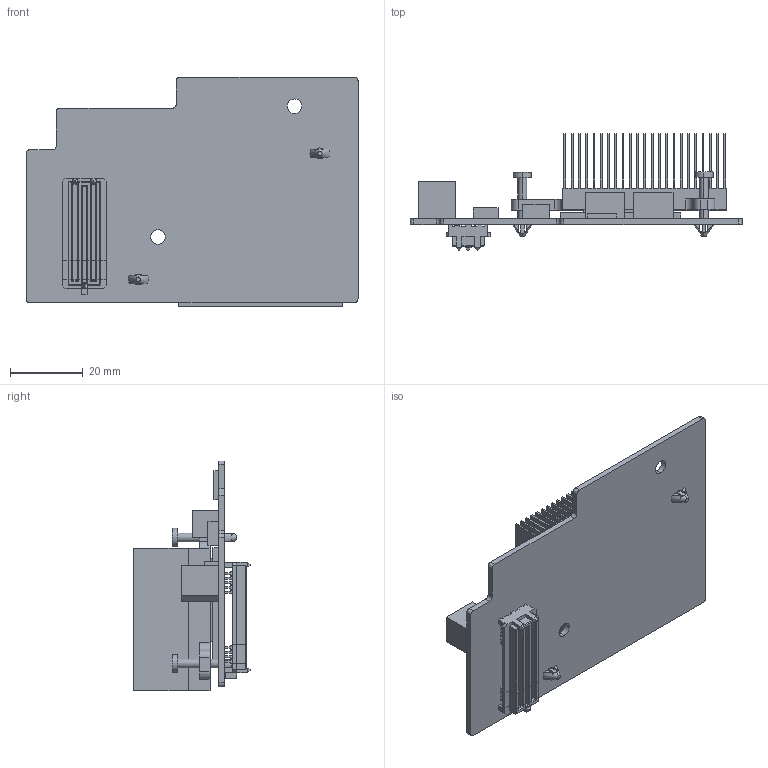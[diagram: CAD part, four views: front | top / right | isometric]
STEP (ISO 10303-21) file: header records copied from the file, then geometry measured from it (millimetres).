
FILE_DESCRIPTION (( 'STEP AP203' ), '1' );
FILE_NAME ('HS+board 3D with inductors(extend 3.2mm TOP SIDE & RIGHT-Hand side)_20150602.STEP', '2015-06-02T12:01:39', ( '' ), ( '' ), 'SwSTEP 2.0', 'SolidWorks 2014', '' );
FILE_SCHEMA (( 'CONFIG_CONTROL_DESIGN' ));
Length unit declared in the file: millimetre
Products named in the file (14): L1; L10; MOLEX_SEARAY_PT1_1; MOLEX_SEARAY_PT2_1; MDCD0082-01; OOLEX_SEARAY_45970-2385_ASM_1_ASM; ICGB0048; PROG0057; C108; HS-20150601; L7; PUSH PIN(82F19-40-9909-1); L8; HS+board 3D with inductors(extend 3.2mm TOP SIDE & RIGHT-Hand side)_20150602
Assembly tree (14 placements, depth 3):
  HS+board 3D with inductors(extend 3.2mm TOP SIDE & RIGHT-Hand side)_20150602
    MDCD0082-01
    ICGB0048
    C108
    L7
    L8
    L1
    L10
    OOLEX_SEARAY_45970-2385_ASM_1_ASM
      MOLEX_SEARAY_PT1_1
      MOLEX_SEARAY_PT2_1
    PROG0057
    HS-20150601
    PUSH PIN(82F19-40-9909-1)  x2
Bounding box: 91.3 x 32.09 x 63.18 mm (x, y, z)
Volume: 31854.4 mm3; surface area: 50323.3 mm2
Topology: 13 solids, 13 shells, 1286 faces, 3527 edges, 2336 vertices
Faces by surface type: plane 1161, cylinder 121, cone 4
Entity records: 40793 total; most frequent: CARTESIAN_POINT 7128, ORIENTED_EDGE 6882, DIRECTION 6201, EDGE_CURVE 3441, LINE 3191, VECTOR 3191, VERTEX_POINT 2280, AXIS2_PLACEMENT_3D 1505
